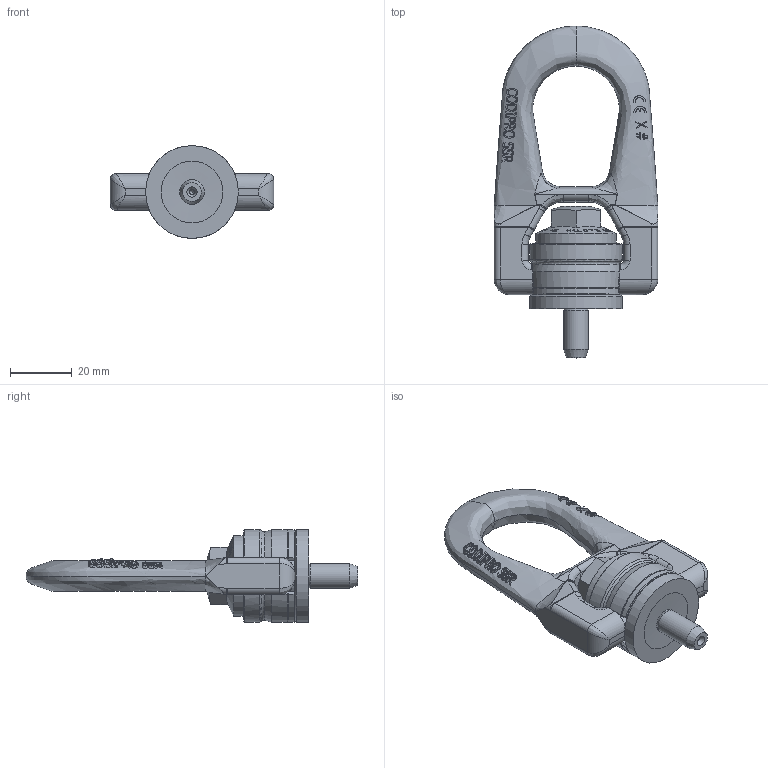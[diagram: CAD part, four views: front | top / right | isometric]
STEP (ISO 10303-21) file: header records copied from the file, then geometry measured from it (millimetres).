
FILE_DESCRIPTION(/* description */ (''),/* implementation_level */ '2;1');
FILE_NAME(/* name */ 'W:\CODIPRO\DOCUMENTS\Plans A NE PAS DIFFUSER !!!\Fichiers STEP\Gamme 2018\Produits NON GRADUP\SS DSR\SS DSR M8.stp',/* time_stamp */ '2017-09-26T13:04:23+02:00',/* author */ ('rklenes'),/* organization */ (''),/* preprocessor_version */ 'ST-DEVELOPER v16.5',/* originating_system */ 'Autodesk Inventor 2017',/* authorisation */ '');
FILE_SCHEMA (('AUTOMOTIVE_DESIGN { 1 0 10303 214 3 1 1 }'));
Products named in the file (5): SS DSR M8; SSM_AF1B-1; SSB_B1B; DRA_M8X36; DRE_D1M8A
Assembly tree (4 placements, depth 2):
  SS DSR M8
    SSM_AF1B-1
    SSB_B1B
    DRA_M8X36
    DRE_D1M8A
Bounding box: 53 x 107.5 x 30 mm (x, y, z)
Volume: 38788 mm3; surface area: 17586.6 mm2
Topology: 4 solids, 4 shells, 703 faces, 1851 edges, 1187 vertices
Faces by surface type: plane 289, bspline 270, cylinder 82, cone 42, torus 19, sphere 1
Full cylindrical faces by diameter (mm): 1.6 x1, 8 x3, 8.2 x1, 10 x2, 14.7 x2, 15 x2, 22 x1, 26 x1, 30 x2
Entity records: 40376 total; most frequent: CARTESIAN_POINT 25280, ORIENTED_EDGE 3598, DIRECTION 2267, EDGE_CURVE 1799, VERTEX_POINT 1178, AXIS2_PLACEMENT_3D 805, EDGE_LOOP 783, FACE_OUTER_BOUND 703
